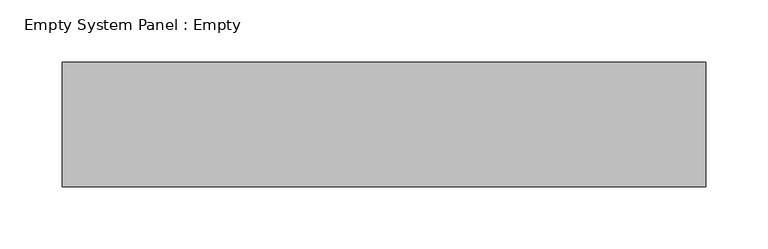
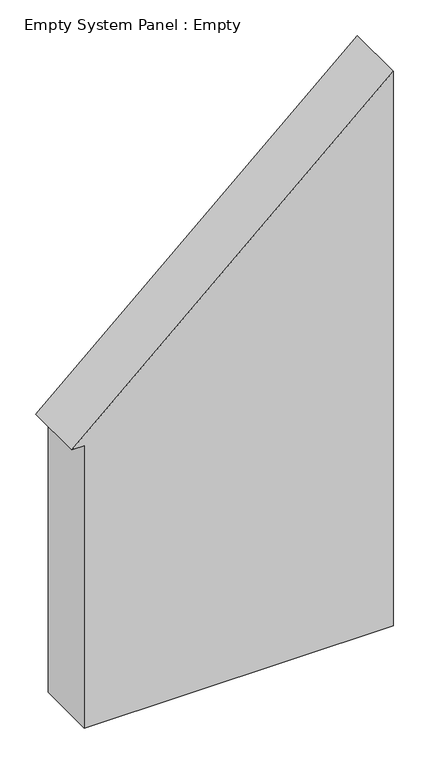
"""IFC4 building model written with IfcOpenShell, lengths in millimetres: plate geometry, Empty System Panel : Empty."""

from ifc_helpers import new_model, si_unit, frame, origin, place, context, project, spatial, polyline, outline, extrude, source, transform, mapped, element, save


def empty_system_panel_empty_17918fa7(model_context):
    return source(origin(), model_context, "Body", "SweptSolid", [
        extrude(outline(polyline([(0.0, -238.7446429), (0.0, 258.7446429), (943.6953165, 258.7446429), (480.7928194, -258.7446429), (480.7928194, -238.7446429), (0.0, -238.7446429)])), frame((0.0, -50.0, 0.0), z_axis=(0.0, 1.0, 0.0), x_axis=(0.0, 0.0, 1.0)), (0.0, 0.0, 1.0), 100.0),
    ])


if __name__ == "__main__":
    model = new_model("IFC4")
    model_context = context("Model", 3, world=origin())
    ifc_project = project(units=[si_unit("LENGTHUNIT", "METRE", prefix="MILLI")], contexts=[model_context])
    site = spatial("IfcSite", under=ifc_project)
    building = spatial("IfcBuilding", under=site)
    placement = place(None, origin())
    empty_system_panel_empty_shape = empty_system_panel_empty_17918fa7(model_context)
    element("IfcPlate", 1, ObjectType="Empty System Panel : Empty", at=placement, inside=building, context=model_context, shape_type="MappedRepresentation", body=[
        mapped(empty_system_panel_empty_shape, transform((0.0, 0.0, 0.0), x_axis=(1.0, 0.0, 0.0), y_axis=(0.0, 1.0, 0.0), z_axis=(0.0, 0.0, 1.0))),
    ])
    save(model, "model.ifc")
